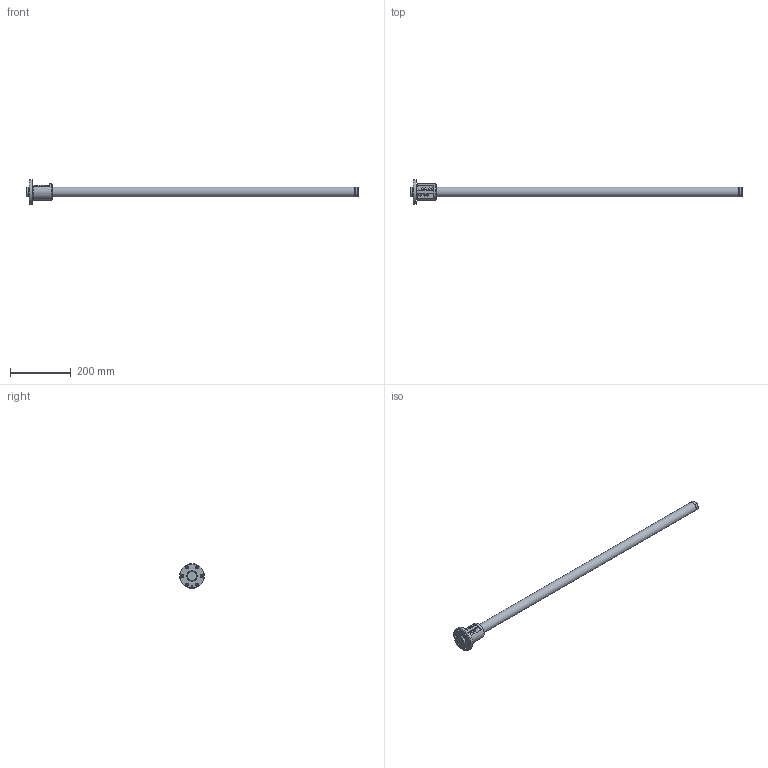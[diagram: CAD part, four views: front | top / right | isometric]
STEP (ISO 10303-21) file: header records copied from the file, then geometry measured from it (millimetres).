
FILE_DESCRIPTION( ( 'STEP AP203' ), ' ' );
FILE_NAME( 'p:/temp/worker_46/3360_3064/app_73_12018011812025331243940818fa3fd_000000_00_00_000000/format_0/BIF3204-10RRG0+1096LC0_10000.stp', '2018-01-18T11:02:54', ( '' ), ( '' ), ' ', 'PARTsolutions', ' ' );
FILE_SCHEMA( ( 'CONFIG_CONTROL_DESIGN' ) );
Length unit declared in the file: millimetre
Products named in the file (3): BIF3204-10RRG0+1096LC0_10000; _BIF 3204-10RR1000500 Shaft; _BIF 3204-10RR Nut
Assembly tree (2 placements, depth 2):
  BIF3204-10RRG0+1096LC0_10000
    _BIF 3204-10RR1000500 Shaft
    _BIF 3204-10RR Nut
Bounding box: 1096 x 81 x 81 mm (x, y, z)
Volume: 1007697.5 mm3; surface area: 145400.1 mm2
Topology: 2 solids, 2 shells, 98 faces, 218 edges, 144 vertices
Faces by surface type: cylinder 47, plane 35, cone 8, torus 8
Full cylindrical faces by diameter (mm): 4.25 x2, 4.917 x1, 5 x8, 6.6 x6, 11 x6, 31.5 x2, 32 x4, 34.8 x2, 54 x1, 81 x1
Entity records: 3272 total; most frequent: CARTESIAN_POINT 1079, DIRECTION 456, ORIENTED_EDGE 326, AXIS2_PLACEMENT_3D 208, EDGE_LOOP 191, EDGE_CURVE 163, VERTEX_POINT 137, FACE_OUTER_BOUND 131
